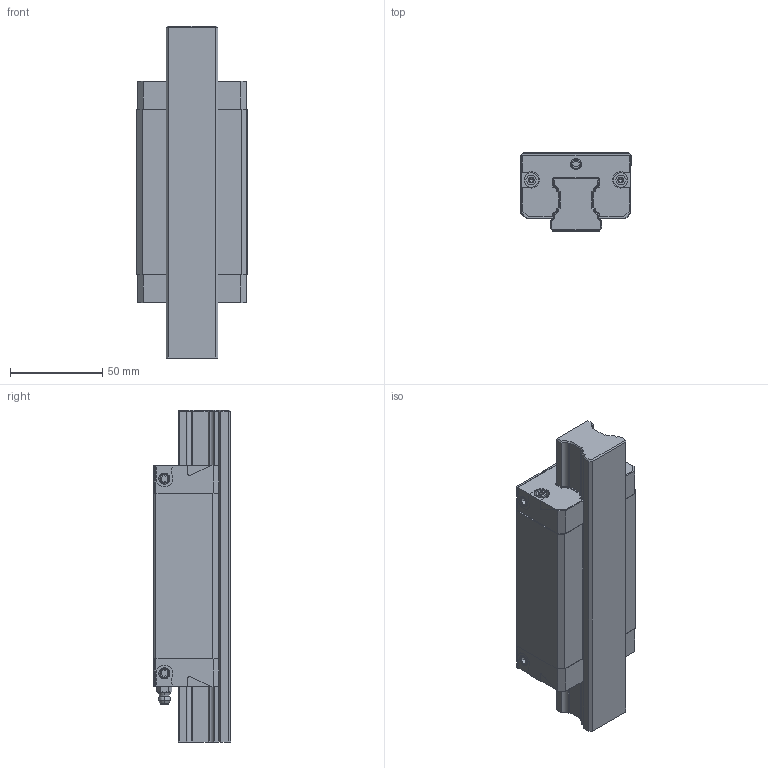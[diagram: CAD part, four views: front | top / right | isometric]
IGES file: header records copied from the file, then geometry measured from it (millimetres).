
Start section: 3D InterOp IGES (v. 2019 1.0.2), Spatial Corp. Copyright (c) 1999-2017.
Global section: file name: R1623_size30.igs; native system: Spatial Corp.; preprocessor: 3D InterOp GENERIC/IGES 3.0; author: Noname; organization: Noname; date: 20220629.124915; units: millimetre
Bounding box: 60 x 42 x 179.7 mm (x, y, z)
Surface area: 72608.9 mm2 (no closed solid volume)
Topology: 0 solids, 0 shells, 525 faces, 2772 edges, 2742 vertices
Faces by surface type: extrusion 292, revolution 233
